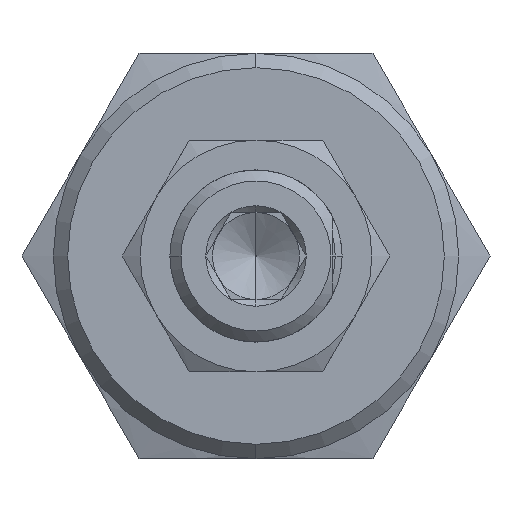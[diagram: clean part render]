
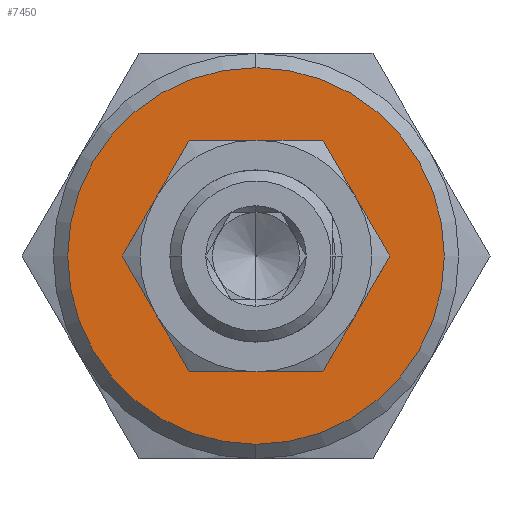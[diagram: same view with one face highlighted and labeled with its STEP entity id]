
A CAD part, left-side view. The second image highlights one B-rep face of the part: STEP entity #7450.
In plain terms, the highlighted planar face has unit normal (-1, 0, 0).
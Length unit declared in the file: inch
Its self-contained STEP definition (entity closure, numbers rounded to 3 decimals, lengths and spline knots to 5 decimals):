
#938=CARTESIAN_POINT('',(-1.673,0.,-0.4065));
#939=VERTEX_POINT('',#938);
#948=CARTESIAN_POINT('',(-1.673,0.,0.4065));
#949=VERTEX_POINT('',#948);
#950=CARTESIAN_POINT('',(-1.673,0.,0.));
#951=DIRECTION('',(1.0,0.0,0.0));
#952=DIRECTION('',(0.0,0.0,-1.0));
#953=AXIS2_PLACEMENT_3D('',#950,#951,#952);
#954=CIRCLE('',#953,0.4065);
#955=EDGE_CURVE('',#939,#949,#954,.T.);
#5212=CARTESIAN_POINT('',(-1.673,0.21651,0.125));
#5213=VERTEX_POINT('',#5212);
#5227=CARTESIAN_POINT('',(-1.673,0.,0.25));
#5228=VERTEX_POINT('',#5227);
#5242=CARTESIAN_POINT('',(-1.673,0.,0.));
#5243=DIRECTION('',(1.0,0.0,0.0));
#5244=DIRECTION('',(0.0,0.0,1.0));
#5245=AXIS2_PLACEMENT_3D('',#5242,#5243,#5244);
#5246=CIRCLE('',#5245,0.25);
#5247=EDGE_CURVE('',#5213,#5228,#5246,.T.);
#5259=CARTESIAN_POINT('',(-1.673,0.21651,-0.125));
#5260=VERTEX_POINT('',#5259);
#5287=CARTESIAN_POINT('',(-1.673,0.,0.));
#5288=DIRECTION('',(1.0,0.0,0.0));
#5289=DIRECTION('',(0.0,0.0,1.0));
#5290=AXIS2_PLACEMENT_3D('',#5287,#5288,#5289);
#5291=CIRCLE('',#5290,0.25);
#5292=EDGE_CURVE('',#5260,#5213,#5291,.T.);
#5304=CARTESIAN_POINT('',(-1.673,0.,-0.25));
#5305=VERTEX_POINT('',#5304);
#5332=CARTESIAN_POINT('',(-1.673,0.,0.));
#5333=DIRECTION('',(1.0,0.0,0.0));
#5334=DIRECTION('',(0.0,0.0,1.0));
#5335=AXIS2_PLACEMENT_3D('',#5332,#5333,#5334);
#5336=CIRCLE('',#5335,0.25);
#5337=EDGE_CURVE('',#5305,#5260,#5336,.T.);
#5362=CARTESIAN_POINT('',(-1.673,-0.21651,-0.125));
#5363=VERTEX_POINT('',#5362);
#5364=CARTESIAN_POINT('',(-1.673,0.,0.));
#5365=DIRECTION('',(1.0,0.0,0.0));
#5366=DIRECTION('',(0.0,0.0,1.0));
#5367=AXIS2_PLACEMENT_3D('',#5364,#5365,#5366);
#5368=CIRCLE('',#5367,0.25);
#5369=EDGE_CURVE('',#5363,#5305,#5368,.T.);
#5407=CARTESIAN_POINT('',(-1.673,-0.21651,0.125));
#5408=VERTEX_POINT('',#5407);
#5409=CARTESIAN_POINT('',(-1.673,0.,0.));
#5410=DIRECTION('',(1.0,0.0,0.0));
#5411=DIRECTION('',(0.0,0.0,1.0));
#5412=AXIS2_PLACEMENT_3D('',#5409,#5410,#5411);
#5413=CIRCLE('',#5412,0.25);
#5414=EDGE_CURVE('',#5408,#5363,#5413,.T.);
#5452=CARTESIAN_POINT('',(-1.673,0.,0.));
#5453=DIRECTION('',(1.0,0.0,0.0));
#5454=DIRECTION('',(0.0,0.0,1.0));
#5455=AXIS2_PLACEMENT_3D('',#5452,#5453,#5454);
#5456=CIRCLE('',#5455,0.25);
#5457=EDGE_CURVE('',#5228,#5408,#5456,.T.);
#7427=CARTESIAN_POINT('',(-1.673,0.,-0.20325));
#7428=DIRECTION('',(-1.0,0.0,0.0));
#7429=DIRECTION('',(0.0,-1.0,0.0));
#7430=AXIS2_PLACEMENT_3D('',#7427,#7428,#7429);
#7431=PLANE('',#7430);
#7432=ORIENTED_EDGE('',*,*,#955,.F.);
#7433=CARTESIAN_POINT('',(-1.673,0.,0.));
#7434=DIRECTION('',(1.0,0.0,0.0));
#7435=DIRECTION('',(0.0,0.0,-1.0));
#7436=AXIS2_PLACEMENT_3D('',#7433,#7434,#7435);
#7437=CIRCLE('',#7436,0.4065);
#7438=EDGE_CURVE('',#949,#939,#7437,.T.);
#7439=ORIENTED_EDGE('',*,*,#7438,.F.);
#7440=EDGE_LOOP('',(#7432,#7439));
#7441=FACE_OUTER_BOUND('',#7440,.T.);
#7442=ORIENTED_EDGE('',*,*,#5247,.T.);
#7443=ORIENTED_EDGE('',*,*,#5457,.T.);
#7444=ORIENTED_EDGE('',*,*,#5414,.T.);
#7445=ORIENTED_EDGE('',*,*,#5369,.T.);
#7446=ORIENTED_EDGE('',*,*,#5337,.T.);
#7447=ORIENTED_EDGE('',*,*,#5292,.T.);
#7448=EDGE_LOOP('',(#7442,#7443,#7444,#7445,#7446,#7447));
#7449=FACE_BOUND('',#7448,.T.);
#7450=ADVANCED_FACE('',(#7441,#7449),#7431,.T.);
